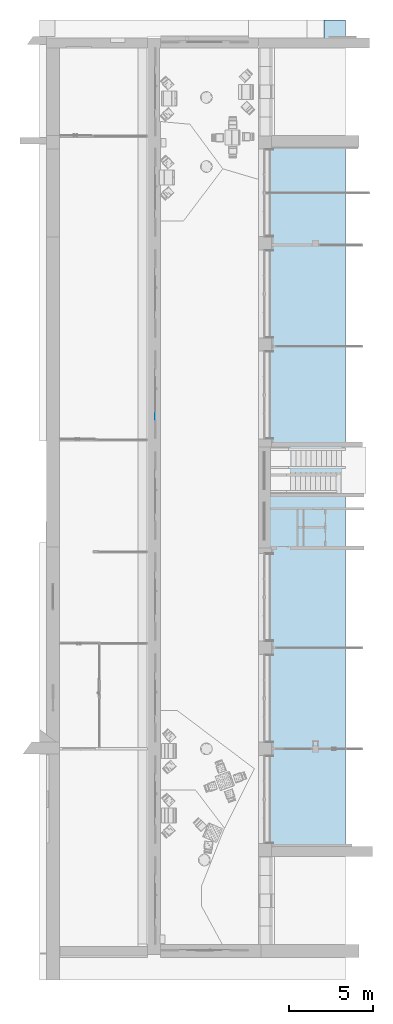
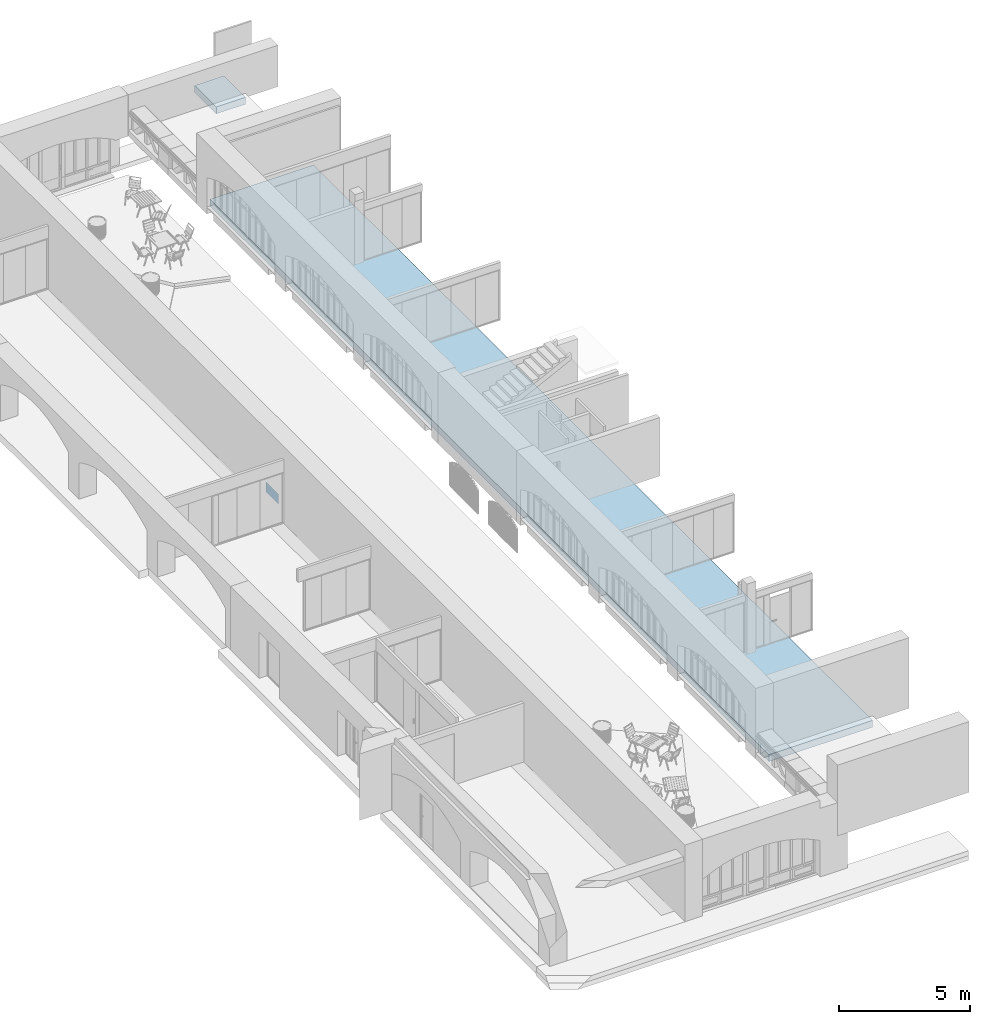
# One storey, part 62 of 88: 1 plate, 1 slab, 4 openings, 1 element without a shape of its own.
"""IFC2X3 building model written with IfcOpenShell, lengths in millimetres."""

from ifc_helpers import new_model, entity, si_unit, converted_unit, derived_unit, direction, frame, frame_2d, origin, place, context, subcontext, project, spatial, polyline, rectangle, outline, extrude, source, transform, mapped, material, layer, layer_set, layer_usage, type_object, type_shapes, element, aggregate, save


model = new_model("IFC2X3")

# Units and contexts
model_context = context("Model", 3, precision=0.01, world=origin(), true_north=direction((6.123031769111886e-17, 1.0)))
body_context = subcontext(model_context, "Body", "Model", "MODEL_VIEW")
ifc_project = project(units=[si_unit("LENGTHUNIT", "METRE", prefix="MILLI"), si_unit("AREAUNIT", "SQUARE_METRE"), si_unit("VOLUMEUNIT", "CUBIC_METRE"), converted_unit("PLANEANGLEUNIT", "DEGREE", entity("IfcPlaneAngleMeasure", 0.017453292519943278), si_unit("PLANEANGLEUNIT", "RADIAN"), dimensions=[0, 0, 0, 0, 0, 0, 0]), si_unit("MASSUNIT", "GRAM", prefix="KILO"), derived_unit("MASSDENSITYUNIT", [(si_unit("MASSUNIT", "GRAM", prefix="KILO"), 1), (si_unit("LENGTHUNIT", "METRE"), -3)]), derived_unit("IONCONCENTRATIONUNIT", [(si_unit("MASSUNIT", "GRAM", prefix="KILO"), 1), (si_unit("LENGTHUNIT", "METRE"), -3)]), derived_unit("MOMENTOFINERTIAUNIT", [(si_unit("LENGTHUNIT", "METRE"), 4)]), si_unit("TIMEUNIT", "SECOND"), si_unit("FREQUENCYUNIT", "HERTZ"), si_unit("THERMODYNAMICTEMPERATUREUNIT", "DEGREE_CELSIUS"), derived_unit("THERMALTRANSMITTANCEUNIT", [(si_unit("MASSUNIT", "GRAM", prefix="KILO"), 1), (si_unit("THERMODYNAMICTEMPERATUREUNIT", "KELVIN"), -1), (si_unit("TIMEUNIT", "SECOND"), -3)]), derived_unit("THERMALCONDUCTANCEUNIT", [(si_unit("MASSUNIT", "GRAM", prefix="KILO"), 1), (si_unit("THERMODYNAMICTEMPERATUREUNIT", "KELVIN"), -1), (si_unit("TIMEUNIT", "SECOND"), -3), (si_unit("LENGTHUNIT", "METRE"), 1)]), derived_unit("VOLUMETRICFLOWRATEUNIT", [(si_unit("LENGTHUNIT", "METRE", prefix="DECI"), 3), (si_unit("TIMEUNIT", "SECOND"), -1)]), derived_unit("MASSFLOWRATEUNIT", [(si_unit("MASSUNIT", "GRAM", prefix="KILO"), 1), (si_unit("TIMEUNIT", "SECOND"), -1)]), derived_unit("ROTATIONALFREQUENCYUNIT", [(si_unit("TIMEUNIT", "SECOND"), -1)]), si_unit("ELECTRICCURRENTUNIT", "AMPERE"), si_unit("ELECTRICVOLTAGEUNIT", "VOLT"), si_unit("POWERUNIT", "WATT"), si_unit("FORCEUNIT", "NEWTON", prefix="KILO"), si_unit("ILLUMINANCEUNIT", "LUX"), si_unit("LUMINOUSFLUXUNIT", "LUMEN"), si_unit("LUMINOUSINTENSITYUNIT", "CANDELA"), si_unit("ENERGYUNIT", "JOULE"), derived_unit("USERDEFINED", [(si_unit("MASSUNIT", "GRAM", prefix="KILO"), -1), (si_unit("LENGTHUNIT", "METRE"), -2), (si_unit("TIMEUNIT", "SECOND"), 3), (si_unit("LUMINOUSFLUXUNIT", "LUMEN"), 1)]), derived_unit("USERDEFINED", [(si_unit("MASSUNIT", "GRAM", prefix="KILO"), 1), (si_unit("TIMEUNIT", "SECOND"), -3), (si_unit("LENGTHUNIT", "METRE"), 3), (si_unit("ELECTRICCURRENTUNIT", "AMPERE"), -2)]), derived_unit("SOUNDPOWERUNIT", [(si_unit("MASSUNIT", "GRAM", prefix="KILO"), 1), (si_unit("TIMEUNIT", "SECOND"), -3), (si_unit("LENGTHUNIT", "METRE"), 2)]), derived_unit("SOUNDPRESSUREUNIT", [(si_unit("MASSUNIT", "GRAM", prefix="KILO"), 1), (si_unit("LENGTHUNIT", "METRE"), -1), (si_unit("TIMEUNIT", "SECOND"), -2)]), derived_unit("LINEARVELOCITYUNIT", [(si_unit("LENGTHUNIT", "METRE"), 1), (si_unit("TIMEUNIT", "SECOND"), -1)]), si_unit("PRESSUREUNIT", "PASCAL"), derived_unit("USERDEFINED", [(si_unit("MASSUNIT", "GRAM", prefix="KILO"), 1), (si_unit("LENGTHUNIT", "METRE"), -2), (si_unit("TIMEUNIT", "SECOND"), -2)]), derived_unit("LINEARFORCEUNIT", [(si_unit("MASSUNIT", "GRAM", prefix="KILO"), 1), (si_unit("TIMEUNIT", "SECOND"), -2)]), derived_unit("PLANARFORCEUNIT", [(si_unit("MASSUNIT", "GRAM", prefix="KILO"), 1), (si_unit("LENGTHUNIT", "METRE"), -1), (si_unit("TIMEUNIT", "SECOND"), -2)]), derived_unit("SPECIFICHEATCAPACITYUNIT", [(si_unit("THERMODYNAMICTEMPERATUREUNIT", "KELVIN"), -1), (si_unit("LENGTHUNIT", "METRE"), 2), (si_unit("TIMEUNIT", "SECOND"), -2)]), derived_unit("HEATFLUXDENSITYUNIT", [(si_unit("MASSUNIT", "GRAM", prefix="KILO"), 1), (si_unit("TIMEUNIT", "SECOND"), -3)]), derived_unit("HEATINGVALUEUNIT", [(si_unit("LENGTHUNIT", "METRE"), 2), (si_unit("TIMEUNIT", "SECOND"), -2)]), derived_unit("VAPORPERMEABILITYUNIT", [(si_unit("LENGTHUNIT", "METRE"), -1), (si_unit("TIMEUNIT", "SECOND"), 1)]), derived_unit("DYNAMICVISCOSITYUNIT", [(si_unit("MASSUNIT", "GRAM", prefix="KILO"), 1), (si_unit("TIMEUNIT", "SECOND"), -1), (si_unit("LENGTHUNIT", "METRE"), -1)]), derived_unit("THERMALEXPANSIONCOEFFICIENTUNIT", [(si_unit("THERMODYNAMICTEMPERATUREUNIT", "KELVIN"), -1)]), derived_unit("MODULUSOFELASTICITYUNIT", [(si_unit("MASSUNIT", "GRAM", prefix="KILO"), 1), (si_unit("LENGTHUNIT", "METRE"), -1), (si_unit("TIMEUNIT", "SECOND"), -2)]), derived_unit("ISOTHERMALMOISTURECAPACITYUNIT", [(si_unit("MASSUNIT", "GRAM", prefix="KILO"), -1), (si_unit("LENGTHUNIT", "METRE"), 3)]), derived_unit("MOISTUREDIFFUSIVITYUNIT", [(si_unit("TIMEUNIT", "SECOND"), -1), (si_unit("LENGTHUNIT", "METRE"), 2)]), derived_unit("MASSPERLENGTHUNIT", [(si_unit("MASSUNIT", "GRAM", prefix="KILO"), 1), (si_unit("LENGTHUNIT", "METRE"), -1)]), derived_unit("THERMALRESISTANCEUNIT", [(si_unit("MASSUNIT", "GRAM", prefix="KILO"), -1), (si_unit("TIMEUNIT", "SECOND"), 3), (si_unit("THERMODYNAMICTEMPERATUREUNIT", "KELVIN"), 1)]), derived_unit("ACCELERATIONUNIT", [(si_unit("LENGTHUNIT", "METRE"), 1), (si_unit("TIMEUNIT", "SECOND"), -2)]), derived_unit("ANGULARVELOCITYUNIT", [(si_unit("TIMEUNIT", "SECOND"), -1), (si_unit("PLANEANGLEUNIT", "RADIAN"), 1)]), derived_unit("LINEARSTIFFNESSUNIT", [(si_unit("MASSUNIT", "GRAM", prefix="KILO"), 1), (si_unit("TIMEUNIT", "SECOND"), -2)]), derived_unit("WARPINGCONSTANTUNIT", [(si_unit("LENGTHUNIT", "METRE"), 6)]), derived_unit("LINEARMOMENTUNIT", [(si_unit("MASSUNIT", "GRAM", prefix="KILO"), 1), (si_unit("LENGTHUNIT", "METRE"), 1), (si_unit("TIMEUNIT", "SECOND"), -2)]), derived_unit("TORQUEUNIT", [(si_unit("MASSUNIT", "GRAM", prefix="KILO"), 1), (si_unit("LENGTHUNIT", "METRE"), 2), (si_unit("TIMEUNIT", "SECOND"), -2)])], contexts=[model_context])

# Site, building, storey
site_placement = place(None, origin())
site = spatial("IfcSite", under=ifc_project, at=site_placement, Name="Default", CompositionType="ELEMENT")
building_placement = place(site_placement, origin())
building = spatial("IfcBuilding", under=site, at=building_placement, Name="Eesti Rahvusraamatukogu hoone renoveerimise projekteerimistööd", CompositionType="ELEMENT")
storey_placement = place(building_placement, origin())
storey = spatial("IfcBuildingStorey", under=building, at=storey_placement, Name="1. korrus", CompositionType="ELEMENT", Elevation=0.0)

# Slab, openings
ifc_material_1 = material(Name="ol. olev materjal")
ifc_layer = layer(ifc_material_1, 320.0)
ifc_layer_set = layer_set([ifc_layer], Name="Floor:ol. olev - 320mm")
ifc_layer_usage = layer_usage(ifc_layer_set, "AXIS3", "POSITIVE", 0.0)
slab_type = type_object("IfcSlabType", Name="Floor:ol. olev - 320mm", PredefinedType="FLOOR", material=ifc_layer_set)
slab_placement = place(storey_placement, origin())
slab = element("IfcSlab", 1, at=slab_placement, inside=storey, type_object=slab_type, material=ifc_layer_usage, Name="Floor:ol. olev - 320mm", ObjectType="Floor:ol. olev - 320mm", PredefinedType="FLOOR", context=body_context, shape_type="SweptSolid", body=[
    extrude(rectangle(XDim=42779.99999999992, YDim=4580.181568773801, at=frame_2d((7012.426618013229, 763.3635947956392), x_axis=(1.0, 0.0))), frame((-33136.54562081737, 20377.573381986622, 1330.0), z_axis=(0.0, 0.0, 1.0), x_axis=(0.0, 1.0, 0.0)), (0.0, 0.0, 1.0), 320.00000000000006),
    extrude(rectangle(XDim=1290.1815687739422, YDim=1655.5457075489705, at=frame_2d((2.1600499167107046e-12, 0.0), x_axis=(1.0, 0.0))), frame((-32254.90921561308, 54818.14913365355, 1330.0)), (0.0, 0.0, 1.0), 320.00000000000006),
])
opening_1_placement = place(slab_placement, origin())
element("IfcOpeningElement", 2, at=opening_1_placement, cuts=slab, Name="Floor:ol. olev - 320mm", ObjectType="Opening", context=body_context, shape_type="SweptSolid", body=[
    extrude(outline(polyline([(-6857.809789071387, 3573.967094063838), (-6857.8097890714, -3736.032905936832), (-926.8784974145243, -3736.032905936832), (-926.8784974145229, -2886.901282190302), (8832.498075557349, -2886.901282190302), (8832.498075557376, 3048.967094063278), (-1047.8097890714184, 3048.9670940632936), (-1047.8097890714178, 3573.9670940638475), (-6857.809789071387, 3573.967094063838)])), frame((2536.0329059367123, 53342.19021092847, 1650.0), z_axis=(0.0, 0.0, 1.0), x_axis=(0.0, -1.0, 0.0)), (0.0, 0.0, -1.0), 1655.5457075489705),
])
opening_2_placement = place(slab_placement, origin())
element("IfcOpeningElement", 3, at=opening_2_placement, cuts=slab, Name="Floor:ol. olev - 320mm", ObjectType="Opening", context=body_context, shape_type="SweptSolid", body=[
    extrude(outline(polyline([(2900.0, 3369.2857142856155), (3050.0, 3369.2857142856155), (3050.0, 4439.285714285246), (-3030.0, 4439.285714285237), (-3030.0, 3369.2857142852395), (-2960.0, 3369.2857142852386), (-2960.0, -1175.7142857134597), (60.0, -1175.7142857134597), (60.0, -2885.714285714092), (-3030.0, -2885.714285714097), (-3030.0, -4085.7142857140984), (3010.0, -4085.714285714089), (3010.0, -3030.714285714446), (2900.0, -3030.714285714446), (2900.0, 3369.2857142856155)])), frame((2440.714285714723, 39420.0, 1650.0), z_axis=(0.0, 0.0, -1.0), x_axis=(0.0, 1.0, 0.0)), (0.0, 0.0, 1.0), 1655.5457075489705),
])
opening_3_placement = place(slab_placement, origin())
element("IfcOpeningElement", 4, at=opening_3_placement, cuts=slab, Name="Floor:ol. olev - 320mm", ObjectType="Opening", context=body_context, shape_type="SweptSolid", body=[
    extrude(outline(polyline([(-3823.5714285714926, -9665.714285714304), (8026.428571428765, -9665.714285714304), (8026.428571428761, -345.71428571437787), (6806.428571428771, -345.7142857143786), (6806.42857142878, 5934.285714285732), (2426.4285714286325, 5934.285714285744), (2426.428571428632, 5654.285714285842), (2026.4285714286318, 5654.285714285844), (2026.4285714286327, 5934.285714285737), (-3573.571428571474, 5934.2857142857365), (-3573.5714285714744, 5654.285714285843), (-3823.571428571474, 5654.285714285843), (-3823.571428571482, 54.28571428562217), (-3573.5714285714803, 54.28571428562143), (-3573.5714285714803, -75.71428571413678), (2026.4285714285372, -75.71428571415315), (2026.4285714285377, 54.28571428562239), (2426.428571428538, 54.28571428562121), (2426.4285714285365, -345.71428571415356), (2026.4285714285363, -345.7142857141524), (2026.4285714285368, -215.71428571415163), (-3573.5714285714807, -215.71428571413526), (-3573.571428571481, -345.7142857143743), (-3823.5714285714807, -345.71428571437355), (-3823.5714285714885, -5945.714285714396), (-3573.571428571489, -5945.714285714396), (-3573.57142857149, -6345.714285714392), (-3823.5714285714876, -6345.714285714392), (-3823.5714285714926, -9665.714285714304)])), frame((13836.428571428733, 36535.714285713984, 1650.0), z_axis=(0.0, 0.0, -1.0), x_axis=(-1.0, 0.0, 0.0)), (0.0, 0.0, 1.0), 1655.5457075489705),
])
opening_4_placement = place(slab_placement, origin())
element("IfcOpeningElement", 5, at=opening_4_placement, cuts=slab, Name="Floor:ol. olev - 320mm", ObjectType="Opening", context=body_context, shape_type="SweptSolid", body=[
    extrude(outline(polyline([(-806.4999775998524, -298.75427597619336), (-806.4999775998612, -1780.4914480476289), (923.4999887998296, -1780.4914480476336), (923.4999887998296, 2079.2457240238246), (-117.00001119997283, 2079.2457240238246), (-117.00001119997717, -298.75427597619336), (-806.4999775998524, -298.75427597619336)])), frame((2870.4914480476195, 31613.499988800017, 1650.0), z_axis=(0.0, 0.0, 1.0), x_axis=(0.0, -1.0, 0.0)), (0.0, 0.0, -1.0), 1655.5457075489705),
])

# Curtain wall, plate
curtain_wall_type = type_object("IfcCurtainWallType", Name="Curtain Wall:Ak-05", PredefinedType="NOTDEFINED")
curtain_wall_placement = place(storey_placement, origin())
curtain_wall = element("IfcCurtainWall", 6, at=curtain_wall_placement, inside=storey, type_object=curtain_wall_type, Name="Curtain Wall:Ak-05", ObjectType="Curtain Wall:Ak-05")
ifc_material_2 = material(Name="EST. Klaas. 3x. Default")
plate_type = type_object("IfcPlateType", Name="System Panel:Peegelaknad 6-16-4-16-4, paneel", PredefinedType="CURTAIN_PANEL", material=ifc_material_2)
shared_shape = source(origin(), body_context, "Body", "SweptSolid", [
    extrude(rectangle(XDim=450.00000000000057, YDim=945.0000000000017, at=frame_2d((0.0, 5.833333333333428), x_axis=(1.0, 0.0))), frame((-5.8333333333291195, -5.0, 225.0), z_axis=(0.0, 1.0, 0.0), x_axis=(0.0, 0.0, 1.0)), (0.0, 0.0, 1.0), 10.0),
])
type_shapes(plate_type, [shared_shape])
plate_placement = place(curtain_wall_placement, frame((-42905.0, 32377.499999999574, 10.0), z_axis=(0.0, 0.0, 1.0), x_axis=(0.0, -1.0, 0.0)))
plate = element("IfcPlate", 7, at=plate_placement, type_object=plate_type, material=ifc_material_2, Name="System Panel:Peegelaknad 6-16-4-16-4, paneel", ObjectType="System Panel:Peegelaknad 6-16-4-16-4, paneel", context=body_context, shape_type="MappedRepresentation", body=[
    mapped(shared_shape, transform((0.0, 0.0, 0.0), scale=1.0)),
])
aggregate(curtain_wall, [plate])

save(model, "model.ifc")
